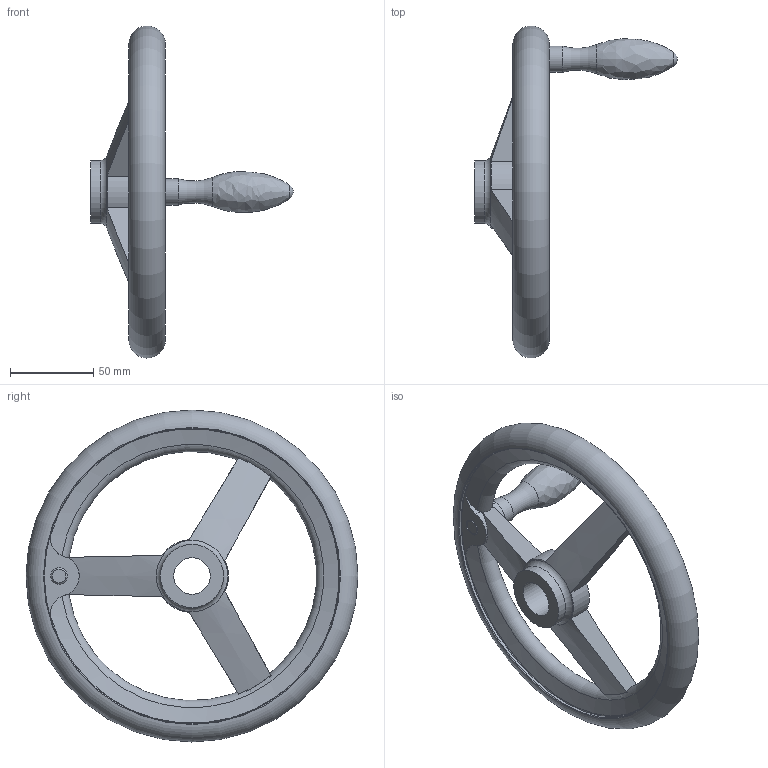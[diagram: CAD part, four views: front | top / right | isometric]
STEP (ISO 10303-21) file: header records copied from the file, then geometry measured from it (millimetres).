
FILE_DESCRIPTION( ( 'STEP AP203' ), '1' );
FILE_NAME( 'C:/Temp/Ganter_Step_05_03_2020/data/1_3/din_950/din_950_b/din_950_b_f/Handwheel DIN 950-AL-200-B22-F.stp', '2020-03-05T10:30:16', ( 'License CC BY-ND 4.0' ), ( 'CADENAS' ), ' ', 'PARTsolutions', ' ' );
FILE_SCHEMA( ( 'CONFIG_CONTROL_DESIGN' ) );
Length unit declared in the file: millimetre
Products named in the file (1): _Handwheel DIN 950-AL-200-B22-F
Bounding box: 122 x 199.96 x 199.96 mm (x, y, z)
Volume: 294871.6 mm3; surface area: 63561.8 mm2
Topology: 1 solids, 1 shells, 49 faces, 137 edges, 87 vertices
Faces by surface type: cylinder 16, torus 15, plane 11, cone 5, bspline 1, sphere 1
Full cylindrical faces by diameter (mm): 10 x1, 15.8 x1, 22 x1, 38 x2, 178 x2
Entity records: 1914 total; most frequent: CARTESIAN_POINT 768, ORIENTED_EDGE 222, DIRECTION 210, EDGE_CURVE 111, AXIS2_PLACEMENT_3D 98, VERTEX_POINT 83, EDGE_LOOP 74, FACE_OUTER_BOUND 65
